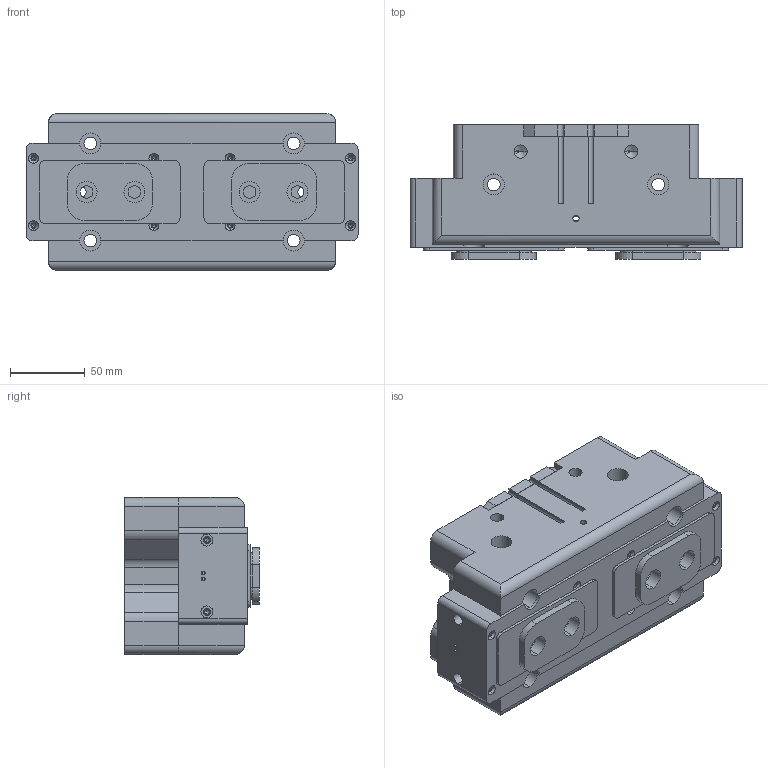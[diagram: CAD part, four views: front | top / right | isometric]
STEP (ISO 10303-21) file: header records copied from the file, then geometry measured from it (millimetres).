
FILE_DESCRIPTION (( 'STEP AP214' ), '1' );
FILE_NAME ('TWN-220A-1-SD.STEP', '2019-12-27T11:26:21', ( '' ), ( '' ), 'SwSTEP 2.0', 'SolidWorks 2016', '' );
FILE_SCHEMA (( 'AUTOMOTIVE_DESIGN' ));
Length unit declared in the file: millimetre
Products named in the file (7): TWN-220A-1-SD-03; TWN-220A-1-SD-06; TWN-220A-1-SD-05; TWN-220A-1-SD-02; TWN-220A-1-SD-01; TWN-220A-1-SD-04; TWN-220A-1-SD
Assembly tree (9 placements, depth 2):
  TWN-220A-1-SD
    TWN-220A-1-SD-01
    TWN-220A-1-SD-03
    TWN-220A-1-SD-02  x2
    TWN-220A-1-SD-04
    TWN-220A-1-SD-05  x2
    TWN-220A-1-SD-06  x2
Bounding box: 222 x 90 x 105 mm (x, y, z)
Volume: 1457303.7 mm3; surface area: 252860.9 mm2
Topology: 9 solids, 15 shells, 704 faces, 1862 edges, 1188 vertices
Faces by surface type: cylinder 316, plane 296, cone 92
Entity records: 19428 total; most frequent: DIRECTION 3290, CARTESIAN_POINT 3137, ORIENTED_EDGE 3000, EDGE_CURVE 1500, AXIS2_PLACEMENT_3D 1197, VERTEX_POINT 980, VECTOR 896, LINE 896
